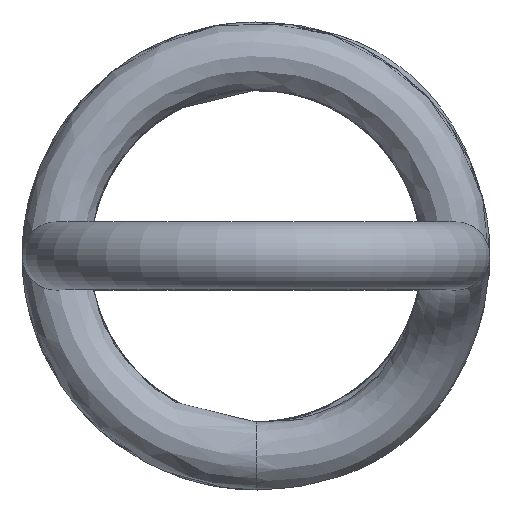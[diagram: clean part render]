
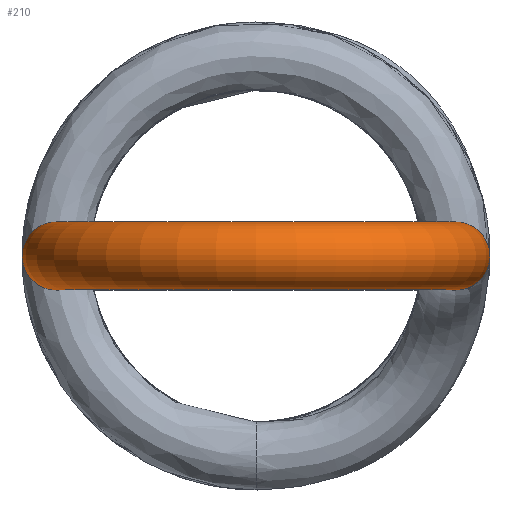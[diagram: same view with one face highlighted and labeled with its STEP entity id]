
A CAD part, front view. The second image highlights one B-rep face of the part: STEP entity #210.
In plain terms, the highlighted toroidal (fillet/blend) face has major radius 9.4 mm and minor radius 1.6 mm.
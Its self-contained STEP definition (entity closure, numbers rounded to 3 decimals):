
#15=TOROIDAL_SURFACE('',#248,9.4,1.6);
#22=CIRCLE('',#244,1.6);
#23=CIRCLE('',#245,1.6);
#24=CIRCLE('',#247,1.6);
#25=CIRCLE('',#249,7.8);
#40=FACE_OUTER_BOUND('',#51,.T.);
#51=EDGE_LOOP('',(#150,#151,#152,#153,#154));
#87=VERTEX_POINT('',#803);
#88=VERTEX_POINT('',#814);
#91=VERTEX_POINT('',#875);
#110=EDGE_CURVE('',#88,#87,#22,.T.);
#111=EDGE_CURVE('',#87,#88,#23,.T.);
#114=EDGE_CURVE('',#91,#91,#24,.T.);
#115=EDGE_CURVE('',#91,#88,#25,.T.);
#150=ORIENTED_EDGE('',*,*,#114,.F.);
#151=ORIENTED_EDGE('',*,*,#115,.T.);
#152=ORIENTED_EDGE('',*,*,#110,.T.);
#153=ORIENTED_EDGE('',*,*,#111,.T.);
#154=ORIENTED_EDGE('',*,*,#115,.F.);
#210=ADVANCED_FACE('',(#40),#15,.T.);
#244=AXIS2_PLACEMENT_3D('',#815,#270,#271);
#245=AXIS2_PLACEMENT_3D('',#816,#272,#273);
#247=AXIS2_PLACEMENT_3D('',#876,#276,#277);
#248=AXIS2_PLACEMENT_3D('',#877,#278,#279);
#249=AXIS2_PLACEMENT_3D('',#878,#280,#281);
#270=DIRECTION('center_axis',(0.,-1.,0.));
#271=DIRECTION('ref_axis',(-0.441,0.,-0.897));
#272=DIRECTION('center_axis',(0.,-1.,0.));
#273=DIRECTION('ref_axis',(-0.441,0.,-0.897));
#276=DIRECTION('center_axis',(0.17,0.986,0.));
#277=DIRECTION('ref_axis',(0.435,-0.075,-0.897));
#278=DIRECTION('center_axis',(0.,0.,
-1.));
#279=DIRECTION('ref_axis',(-0.085,-0.996,0.));
#280=DIRECTION('center_axis',(0.,0.,
1.));
#281=DIRECTION('ref_axis',(-0.085,-0.996,0.));
#803=CARTESIAN_POINT('',(8.694,-83.,-1.436));
#814=CARTESIAN_POINT('',(7.8,-83.,0.));
#815=CARTESIAN_POINT('Origin',(9.4,-83.,0.));
#816=CARTESIAN_POINT('Origin',(9.4,-83.,0.));
#875=CARTESIAN_POINT('',(-7.687,-81.677,0.));
#876=CARTESIAN_POINT('Origin',(-9.264,-81.406,0.));
#877=CARTESIAN_POINT('Origin',(0.,-83.,0.));
#878=CARTESIAN_POINT('Origin',(0.,-83.,0.));
